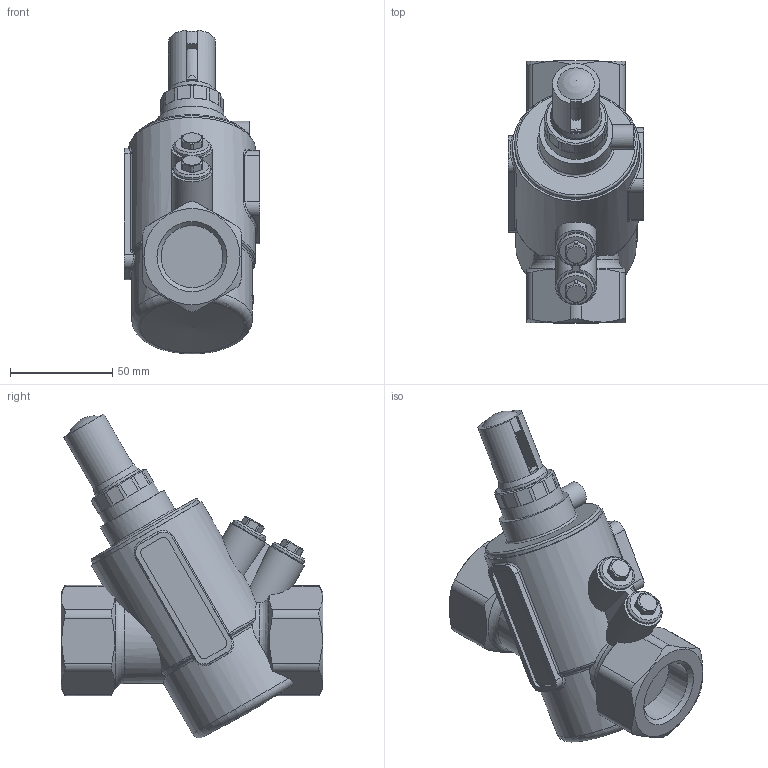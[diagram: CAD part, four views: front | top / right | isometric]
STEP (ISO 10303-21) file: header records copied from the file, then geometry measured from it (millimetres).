
FILE_DESCRIPTION(('STEP AP203'), '1');
FILE_NAME('VT.043.G.0602', '2024-09-18T06:54:49', ('User'), ('Vesta'), 'C3D Converter', 'C3D Toolkit', '');
FILE_SCHEMA(('CONFIG_CONTROL_DESIGN'));
Length unit declared in the file: millimetre
Bounding box: 66 x 128 x 158.29 mm (x, y, z)
Volume: 448592.1 mm3; surface area: 48821.6 mm2
Topology: 1 solids, 1 shells, 413 faces, 1120 edges, 734 vertices
Faces by surface type: plane 165, extrusion 124, cylinder 72, cone 18, bspline 17, torus 16, sphere 1
Full cylindrical faces by diameter (mm): 6.647 x1, 12 x1, 16.2 x2, 18 x2, 25 x1, 30.292 x2, 31 x1, 60 x1, 62.2 x1
Entity records: 19494 total; most frequent: CARTESIAN_POINT 10013, ORIENTED_EDGE 2186, DIRECTION 1465, EDGE_CURVE 1093, VERTEX_POINT 732, VECTOR 597, B_SPLINE_CURVE_WITH_KNOTS 553, LINE 473
